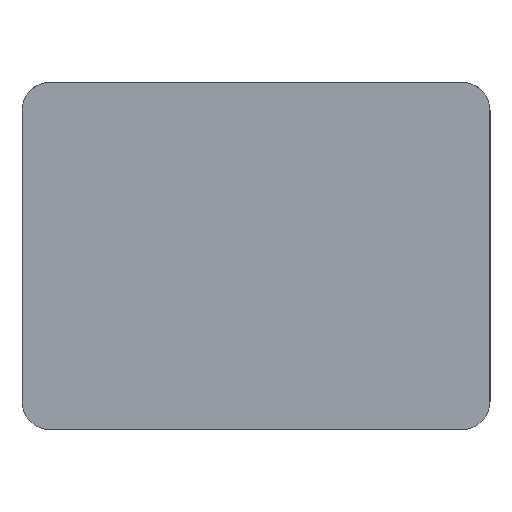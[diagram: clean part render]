
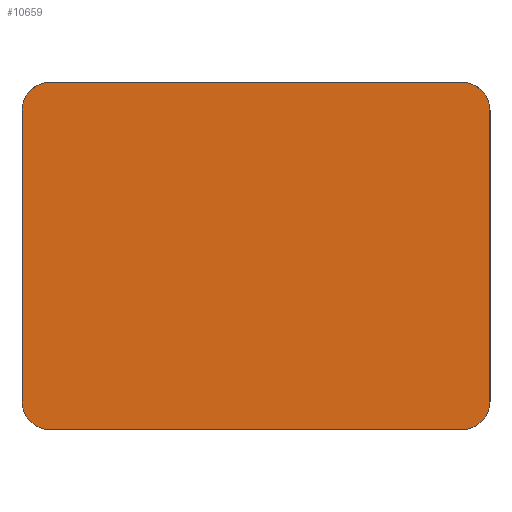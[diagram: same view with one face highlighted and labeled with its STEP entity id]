
A CAD part, left-side view. The second image highlights one B-rep face of the part: STEP entity #10659.
In plain terms, the highlighted planar face has unit normal (-1, 0, 0).
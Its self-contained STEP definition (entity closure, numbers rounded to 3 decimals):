
#1354=PLANE('',#10981);
#1911=FACE_OUTER_BOUND('',#2537,.T.);
#2537=EDGE_LOOP('',(#9856,#9857,#9858,#9859,#9860,#9861,#9862,#9863));
#3332=LINE('',#21442,#4123);
#3348=LINE('',#21569,#4139);
#3351=LINE('',#21574,#4142);
#3352=LINE('',#21578,#4143);
#4123=VECTOR('',#12201,10.);
#4139=VECTOR('',#12305,10.);
#4142=VECTOR('',#12310,10.);
#4143=VECTOR('',#12313,10.);
#4204=CIRCLE('',#10955,5.);
#4215=CIRCLE('',#10971,5.);
#4221=CIRCLE('',#10982,5.);
#4222=CIRCLE('',#10983,5.);
#5241=VERTEX_POINT('',#21436);
#5243=VERTEX_POINT('',#21440);
#5248=VERTEX_POINT('',#21476);
#5249=VERTEX_POINT('',#21478);
#5263=VERTEX_POINT('',#21536);
#5270=VERTEX_POINT('',#21568);
#5272=VERTEX_POINT('',#21575);
#5273=VERTEX_POINT('',#21577);
#6776=EDGE_CURVE('',#5243,#5241,#3332,.T.);
#6783=EDGE_CURVE('',#5248,#5249,#4204,.T.);
#6804=EDGE_CURVE('',#5241,#5263,#4215,.T.);
#6816=EDGE_CURVE('',#5249,#5270,#3348,.T.);
#6819=EDGE_CURVE('',#5263,#5248,#3351,.T.);
#6820=EDGE_CURVE('',#5272,#5243,#4221,.T.);
#6821=EDGE_CURVE('',#5273,#5272,#3352,.T.);
#6822=EDGE_CURVE('',#5270,#5273,#4222,.T.);
#9856=ORIENTED_EDGE('',*,*,#6783,.F.);
#9857=ORIENTED_EDGE('',*,*,#6819,.F.);
#9858=ORIENTED_EDGE('',*,*,#6804,.F.);
#9859=ORIENTED_EDGE('',*,*,#6776,.F.);
#9860=ORIENTED_EDGE('',*,*,#6820,.F.);
#9861=ORIENTED_EDGE('',*,*,#6821,.F.);
#9862=ORIENTED_EDGE('',*,*,#6822,.F.);
#9863=ORIENTED_EDGE('',*,*,#6816,.F.);
#10659=ADVANCED_FACE('',(#1911),#1354,.F.);
#10955=AXIS2_PLACEMENT_3D('',#21479,#12240,#12241);
#10971=AXIS2_PLACEMENT_3D('',#21537,#12280,#12281);
#10981=AXIS2_PLACEMENT_3D('',#21573,#12308,#12309);
#10982=AXIS2_PLACEMENT_3D('',#21576,#12311,#12312);
#10983=AXIS2_PLACEMENT_3D('',#21579,#12314,#12315);
#12201=DIRECTION('',(0.,0.,-1.));
#12240=DIRECTION('center_axis',(1.,0.,0.));
#12241=DIRECTION('ref_axis',(0.,0.707,-0.707));
#12280=DIRECTION('center_axis',(1.,0.,0.));
#12281=DIRECTION('ref_axis',(0.,-0.707,-0.707));
#12305=DIRECTION('',(0.,0.,1.));
#12308=DIRECTION('center_axis',(1.,0.,0.));
#12309=DIRECTION('ref_axis',(0.,1.,0.));
#12310=DIRECTION('',(0.,1.,0.));
#12311=DIRECTION('center_axis',(1.,0.,0.));
#12312=DIRECTION('ref_axis',(0.,-0.707,0.707));
#12313=DIRECTION('',(0.,-1.,0.));
#12314=DIRECTION('center_axis',(1.,0.,0.));
#12315=DIRECTION('ref_axis',(0.,0.707,0.707));
#21436=CARTESIAN_POINT('',(0.,0.,5.));
#21440=CARTESIAN_POINT('',(0.,0.,58.));
#21442=CARTESIAN_POINT('',(0.,0.,63.));
#21476=CARTESIAN_POINT('',(0.,80.,0.));
#21478=CARTESIAN_POINT('',(0.,85.,5.));
#21479=CARTESIAN_POINT('Origin',(0.,80.,5.));
#21536=CARTESIAN_POINT('',(0.,5.,0.));
#21537=CARTESIAN_POINT('Origin',(0.,5.,5.));
#21568=CARTESIAN_POINT('',(0.,85.,58.));
#21569=CARTESIAN_POINT('',(0.,85.,0.));
#21573=CARTESIAN_POINT('Origin',(0.,42.5,31.5));
#21574=CARTESIAN_POINT('',(0.,0.,0.));
#21575=CARTESIAN_POINT('',(0.,5.,63.));
#21576=CARTESIAN_POINT('Origin',(0.,5.,58.));
#21577=CARTESIAN_POINT('',(0.,80.,63.));
#21578=CARTESIAN_POINT('',(0.,85.,63.));
#21579=CARTESIAN_POINT('Origin',(0.,80.,58.));
